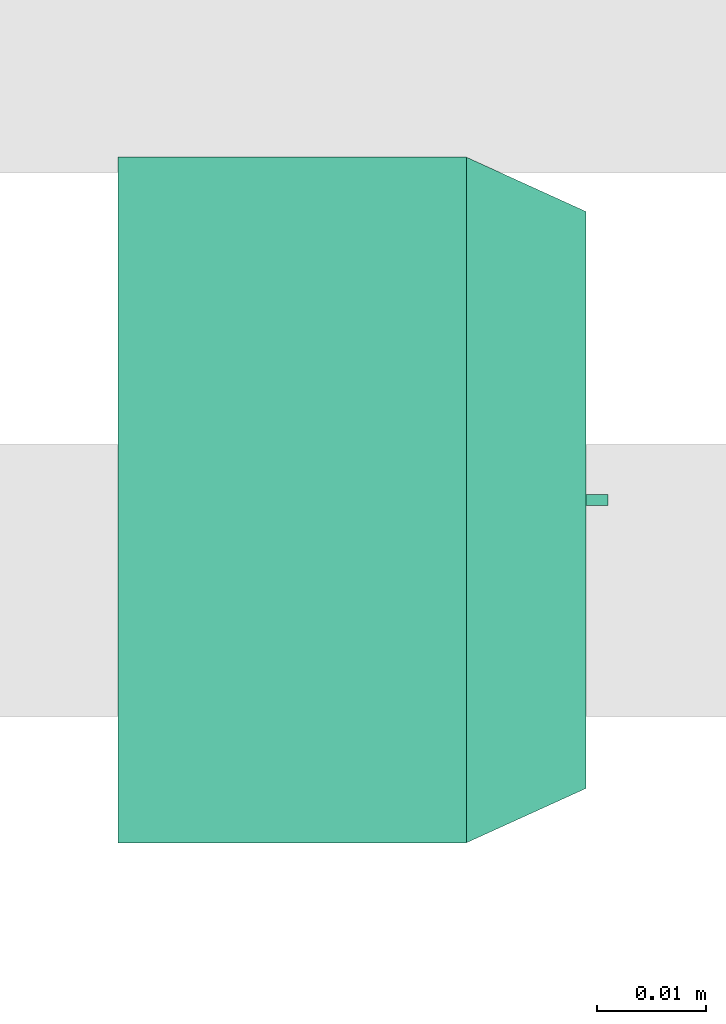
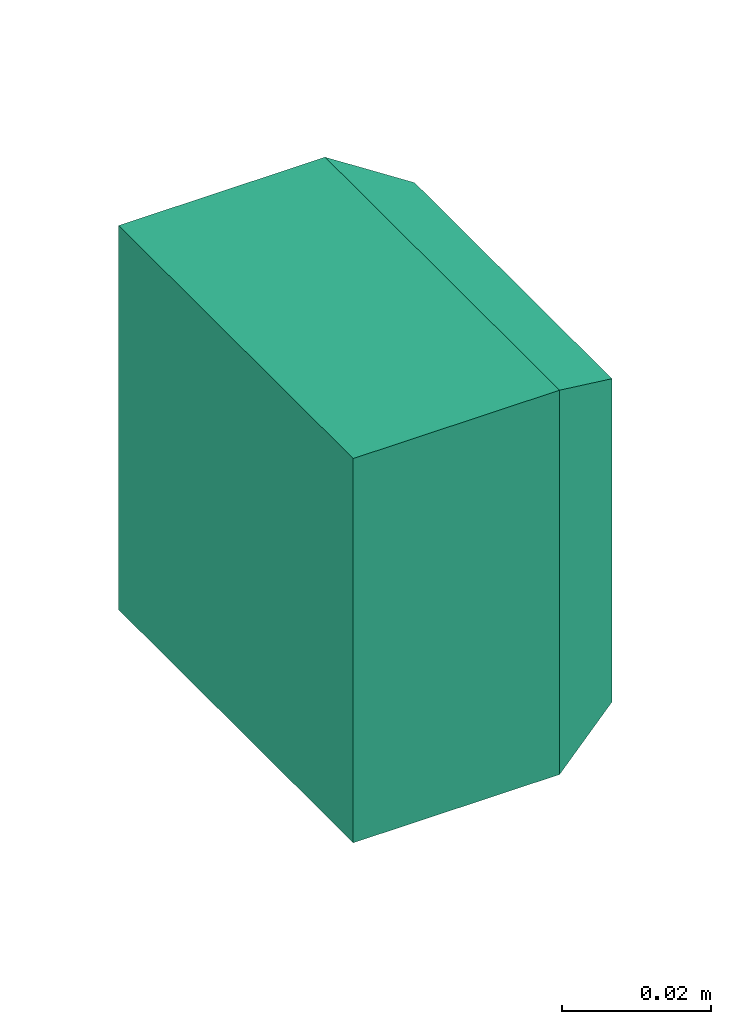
# One storey, part 22 of 22: 1 flow terminal.
"""IFC2X3 building model written with IfcOpenShell, lengths in millimetres."""

from ifc_helpers import new_model, entity, si_unit, converted_unit, derived_unit, direction, frame, origin_with_axes, place, context, subcontext, project, spatial, open_shell, surface_model, source, transform, mapped, type_object, element, save


model = new_model("IFC2X3")

# Units and contexts
model_context = context("Model", 3, precision=0.01, world=frame((0.0, 4.29681676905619e-09, 0.0)), true_north=direction((4.01073788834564e-13, 1.0)))
plan_context = context("Plan", 3, precision=0.01, world=frame((0.0, 4.29681676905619e-09, 0.0)), true_north=direction((4.01073788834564e-13, 1.0)))
body_context = subcontext(model_context, "Body", "Model", "MODEL_VIEW")
ifc_project = project(units=[converted_unit("PLANEANGLEUNIT", "DEGREE", entity("IfcPositiveLengthMeasure", 0.0174532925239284), si_unit("PLANEANGLEUNIT", "RADIAN"), dimensions=[0, 0, 0, 0, 0, 0, 0]), si_unit("AREAUNIT", "SQUARE_METRE"), si_unit("LENGTHUNIT", "METRE", prefix="MILLI"), si_unit("MASSUNIT", "GRAM", prefix="KILO"), si_unit("POWERUNIT", "WATT"), si_unit("PRESSUREUNIT", "PASCAL", prefix="KILO"), si_unit("FORCEUNIT", "NEWTON", prefix="KILO"), si_unit("ELECTRICVOLTAGEUNIT", "VOLT"), si_unit("ELECTRICCURRENTUNIT", "AMPERE"), si_unit("THERMODYNAMICTEMPERATUREUNIT", "DEGREE_CELSIUS"), si_unit("TIMEUNIT", "SECOND"), si_unit("VOLUMEUNIT", "CUBIC_METRE"), derived_unit("LINEARVELOCITYUNIT", [(si_unit("LENGTHUNIT", "METRE"), 1), (si_unit("TIMEUNIT", "SECOND"), -1)]), derived_unit("VOLUMETRICFLOWRATEUNIT", [(si_unit("VOLUMEUNIT", "CUBIC_METRE"), 1), (si_unit("TIMEUNIT", "SECOND"), -1)]), derived_unit("THERMALTRANSMITTANCEUNIT", [(si_unit("POWERUNIT", "WATT"), 1), (si_unit("THERMODYNAMICTEMPERATUREUNIT", "KELVIN"), -1), (si_unit("AREAUNIT", "SQUARE_METRE"), -1)]), derived_unit("SOUNDPRESSUREUNIT", [(si_unit("PRESSUREUNIT", "PASCAL"), 1)])], contexts=[model_context, plan_context])

# Site, building, storey
site_placement = place(None, frame((0.0, -4.29681676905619e-09, 0.0), z_axis=(0.0, 0.0, 1.0), x_axis=(1.0, 0.0, 0.0)))
site = spatial("IfcSite", under=ifc_project, at=site_placement, Name="ENGM", CompositionType="ELEMENT")
building_placement = place(site_placement, frame((0.0, 4.29681676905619e-09, 0.0), z_axis=(0.0, 0.0, 1.0), x_axis=(1.0, 0.0, 0.0)))
building = spatial("IfcBuilding", under=site, at=building_placement, Name="TI", CompositionType="ELEMENT")
storey_placement = place(building_placement, frame((0.0, 0.0, 210900.0), z_axis=(0.0, 0.0, 1.0), x_axis=(1.0, 0.0, 0.0)))
storey = spatial("IfcBuildingStorey", under=building, at=storey_placement, Name="Nivå F", CompositionType="ELEMENT", Elevation=210900.0)

# Flow terminal
outlet_type = type_object("IfcOutletType", Name="Jordet-topolet-1-veis-Påvegg", PredefinedType="POWEROUTLET")
shared_shape = source(origin_with_axes(), body_context, "Body", "SurfaceModel", [
    surface_model("IfcShellBasedSurfaceModel", [(0.5, 44.9429, -17.52434), (0.5, 45.01143, -17.00374), (0.5, 43.88169, -17.82364), (0.5, 44.74195, -18.00946), (0.5, 35.01143, -17.00374), (0.5, 44.4223, -18.42604), (0.5, 43.69523, -17.9879), (0.5, 44.00572, -18.74569), (0.5, 43.47906, -18.11047), (0.5, 43.52059, -18.94664), (0.5, 43.24237, -18.18616), (0.5, 43.0, -19.01518), (0.5, 35.01143, -17.82364), (0.5, 42.9952, -18.21175), (0.5, 21.5, -19.01518), (0.5, 21.5, -18.21175), (0.5, 43.88169, 17.82364), (0.5, 44.74195, 18.00946), (0.5, 44.4223, 18.42604), (0.5, 44.00572, 18.74569), (0.5, 43.69523, 17.9879), (0.5, 43.47906, 18.11047), (0.5, 45.01143, 17.00374), (0.5, 44.9429, 17.52434), (0.5, 43.52059, 18.94664), (0.5, 43.0, 19.01518), (0.5, 42.9952, 18.21175), (0.5, 43.24237, 18.18616), (0.5, 21.5, 19.01518), (0.5, 21.5, 18.21175), (0.5, 35.01143, 17.00374), (0.5, 35.01143, 17.82364), (-0.5, 35.01143, -17.82364), (-0.5, 35.01143, -17.00374), (-0.5, 43.88169, -17.82364), (-0.5, 43.0, -19.01518), (-0.5, 43.24237, -18.18616), (-0.5, 43.52059, -18.94664), (-0.5, 45.01143, -17.00374), (-0.5, 21.5, -18.21175), (-0.5, 42.9952, -18.21175), (-0.5, 21.5, -19.01518), (-0.5, 43.47906, -18.11047), (-0.5, 44.4223, -18.42604), (-0.5, 43.69523, -17.9879), (-0.5, 44.9429, -17.52434), (-0.5, 44.74195, -18.00946), (-0.5, 44.00572, -18.74569), (-0.5, 21.5, 18.21175), (-0.5, 21.5, 19.01518), (-0.5, 42.9952, 18.21175), (-0.5, 43.0, 19.01518), (-0.5, 43.24237, 18.18616), (-0.5, 35.01143, 17.00374), (-0.5, 35.01143, 17.82364), (-0.5, 43.88169, 17.82364), (-0.5, 43.52059, 18.94664), (-0.5, 43.47906, 18.11047), (-0.5, 44.00572, 18.74569), (-0.5, 43.69523, 17.9879), (-0.5, 44.4223, 18.42604), (-0.5, 44.74195, 18.00946), (-0.5, 44.9429, 17.52434), (-0.5, 45.01143, 17.00374), (7.83494, 22.0, -1.25), (9.35295, 22.0, -2.41481), (8.75, 22.0, -2.16506), (8.23223, 22.0, -1.76777), (7.58519, 22.0, -0.64705), (12.41481, 22.0, -0.64705), (7.58519, 22.0, 0.64705), (10.64705, 22.0, -2.41481), (11.76777, 22.0, -1.76777), (11.25, 22.0, -2.16506), (10.0, 22.0, -2.5), (12.16506, 22.0, -1.25), (7.5, 22.0, 0.0), (7.83494, 22.0, 1.25), (8.23223, 22.0, 1.76777), (12.41481, 22.0, 0.64705), (9.35295, 22.0, 2.41481), (8.75, 22.0, 2.16506), (10.0, 22.0, 2.5), (11.25, 22.0, 2.16506), (12.16506, 22.0, 1.25), (12.5, 22.0, 0.0), (11.76777, 22.0, 1.76777), (10.64705, 22.0, 2.41481), (-10.64705, 22.0, -2.41481), (-11.25, 22.0, -2.16506), (-11.76777, 22.0, -1.76777), (-8.23223, 22.0, -1.76777), (-12.41481, 22.0, -0.64705), (-12.16506, 22.0, -1.25), (-7.58519, 22.0, 0.64705), (-9.35295, 22.0, -2.41481), (-8.75, 22.0, -2.16506), (-10.0, 22.0, -2.5), (-7.58519, 22.0, -0.64705), (-7.83494, 22.0, -1.25), (-12.5, 22.0, 0.0), (-12.16506, 22.0, 1.25), (-11.76777, 22.0, 1.76777), (-11.25, 22.0, 2.16506), (-10.64705, 22.0, 2.41481), (-10.0, 22.0, 2.5), (-9.35295, 22.0, 2.41481), (-7.83494, 22.0, 1.25), (-7.5, 22.0, 0.0), (-8.23223, 22.0, 1.76777), (-8.75, 22.0, 2.16506), (-12.41481, 22.0, 0.64705), (9.35295, 21.5, 2.41481), (11.25, 21.5, 2.16506), (10.0, 21.5, 2.5), (8.23223, 21.5, 1.76777), (8.75, 21.5, 2.16506), (7.83494, 21.5, 1.25), (7.58519, 21.5, 0.64705), (12.16506, 21.5, 1.25), (11.76777, 21.5, 1.76777), (10.64705, 21.5, 2.41481), (12.41481, 21.5, 0.64705), (12.41481, 21.5, -0.64705), (12.5, 21.5, 0.0), (7.58519, 21.5, -0.64705), (9.35295, 21.5, -2.41481), (7.83494, 21.5, -1.25), (8.75, 21.5, -2.16506), (8.23223, 21.5, -1.76777), (10.0, 21.5, -2.5), (11.76777, 21.5, -1.76777), (12.16506, 21.5, -1.25), (10.64705, 21.5, -2.41481), (11.25, 21.5, -2.16506), (7.5, 21.5, 0.0), (-10.0, 21.5, 2.5), (-10.64705, 21.5, 2.41481), (-11.25, 21.5, 2.16506), (-9.35295, 21.5, 2.41481), (-11.76777, 21.5, 1.76777), (-12.41481, 21.5, -0.64705), (-12.16506, 21.5, 1.25), (-8.23223, 21.5, 1.76777), (-8.75, 21.5, 2.16506), (-7.83494, 21.5, 1.25), (-7.58519, 21.5, 0.64705), (-7.58519, 21.5, -0.64705), (-7.5, 21.5, 0.0), (-12.41481, 21.5, 0.64705), (-12.5, 21.5, 0.0), (-8.23223, 21.5, -1.76777), (-11.76777, 21.5, -1.76777), (-12.16506, 21.5, -1.25), (-11.25, 21.5, -2.16506), (-10.64705, 21.5, -2.41481), (-10.0, 21.5, -2.5), (-7.83494, 21.5, -1.25), (-9.35295, 21.5, -2.41481), (-8.75, 21.5, -2.16506), (-26.5, 43.0, -26.5), (-10.0, 43.0, -17.32051), (-5.17638, 43.0, -19.31852), (-14.14214, 43.0, -14.14214), (0.0, 43.0, -20.0), (-20.0, 43.0, 0.0), (-19.31852, 43.0, -5.17638), (-17.32051, 43.0, -10.0), (-26.5, 43.0, 26.5), (26.5, 43.0, -26.5), (5.17638, 43.0, -19.31852), (10.0, 43.0, -17.32051), (14.14214, 43.0, -14.14214), (17.32051, 43.0, -10.0), (19.31852, 43.0, -5.17638), (20.0, 43.0, 0.0), (-17.32051, 43.0, 10.0), (-19.31852, 43.0, 5.17638), (-14.14214, 43.0, 14.14214), (-10.0, 43.0, 17.32051), (-5.17638, 43.0, 19.31852), (0.0, 43.0, 20.0), (26.5, 43.0, 26.5), (19.31852, 43.0, 5.17638), (17.32051, 43.0, 10.0), (10.0, 43.0, 17.32051), (5.17638, 43.0, 19.31852), (14.14214, 43.0, 14.14214), (31.5, 32.0, -31.5), (10.0, 32.0, -17.32051), (5.17638, 32.0, -19.31852), (14.14214, 32.0, -14.14214), (0.0, 32.0, -20.0), (20.0, 32.0, 0.0), (19.31852, 32.0, -5.17638), (17.32051, 32.0, -10.0), (31.5, 32.0, 31.5), (-31.5, 32.0, -31.5), (-5.17638, 32.0, -19.31852), (-10.0, 32.0, -17.32051), (-14.14214, 32.0, -14.14214), (-17.32051, 32.0, -10.0), (-19.31852, 32.0, -5.17638), (-20.0, 32.0, 0.0), (17.32051, 32.0, 10.0), (19.31852, 32.0, 5.17638), (14.14214, 32.0, 14.14214), (10.0, 32.0, 17.32051), (5.17638, 32.0, 19.31852), (0.0, 32.0, 20.0), (-31.5, 32.0, 31.5), (-19.31852, 32.0, 5.17638), (-17.32051, 32.0, 10.0), (-10.0, 32.0, 17.32051), (-5.17638, 32.0, 19.31852), (-14.14214, 32.0, 14.14214), (-17.32051, 21.5, -10.0), (-19.31852, 21.5, -5.17638), (-5.17638, 21.5, -19.31852), (-10.0, 21.5, -17.32051), (-14.14214, 21.5, -14.14214), (-20.0, 21.5, 0.0), (0.0, 21.5, -20.0), (14.14214, 21.5, -14.14214), (10.0, 21.5, -17.32051), (20.0, 21.5, 0.0), (19.31852, 21.5, -5.17638), (17.32051, 21.5, -10.0), (5.17638, 21.5, -19.31852), (17.32051, 21.5, 10.0), (19.31852, 21.5, 5.17638), (5.17638, 21.5, 19.31852), (10.0, 21.5, 17.32051), (14.14214, 21.5, 14.14214), (0.0, 21.5, 20.0), (-14.14214, 21.5, 14.14214), (-10.0, 21.5, 17.32051), (-19.31852, 21.5, 5.17638), (-17.32051, 21.5, 10.0), (-5.17638, 21.5, 19.31852), (-31.5, 0.0, 31.5), (-31.5, 0.0, -31.5), (31.5, 0.0, -31.5), (31.5, 0.0, 31.5)], [open_shell([[[0, 1, 2]], [[0, 2, 3]], [[2, 1, 4]], [[5, 2, 6]], [[3, 2, 5]], [[7, 5, 6]], [[8, 9, 7]], [[7, 6, 8]], [[10, 11, 9]], [[12, 2, 4]], [[13, 11, 10]], [[13, 14, 11]], [[15, 14, 13]], [[10, 9, 8]], [[16, 17, 18]], [[18, 19, 20]], [[19, 21, 20]], [[22, 23, 16]], [[16, 23, 17]], [[18, 20, 16]], [[19, 24, 21]], [[25, 26, 27]], [[25, 28, 26]], [[28, 29, 26]], [[21, 24, 27]], [[30, 22, 16]], [[31, 30, 16]], [[27, 24, 25]], [[32, 33, 34]], [[35, 36, 37]], [[33, 38, 34]], [[39, 40, 41]], [[35, 40, 36]], [[41, 40, 35]], [[36, 42, 37]], [[43, 44, 34]], [[38, 45, 34]], [[46, 34, 45]], [[42, 47, 37]], [[47, 44, 43]], [[34, 46, 43]], [[47, 42, 44]], [[48, 49, 50]], [[50, 51, 52]], [[51, 50, 49]], [[53, 54, 55]], [[56, 57, 52]], [[52, 51, 56]], [[57, 58, 59]], [[59, 58, 60]], [[55, 60, 61]], [[59, 60, 55]], [[62, 63, 55]], [[61, 62, 55]], [[53, 55, 63]], [[58, 57, 56]], [[9, 35, 37]], [[7, 37, 47]], [[11, 35, 9]], [[7, 9, 37]], [[5, 7, 47]], [[47, 43, 5]], [[3, 43, 46]], [[0, 46, 45]], [[3, 46, 0]], [[1, 0, 45]], [[38, 1, 45]], [[43, 3, 5]], [[4, 1, 33]], [[38, 33, 1]], [[12, 4, 32]], [[33, 32, 4]], [[2, 12, 32]], [[32, 34, 2]], [[34, 6, 2]], [[34, 44, 6]], [[8, 6, 44]], [[42, 8, 44]], [[36, 13, 10]], [[42, 36, 10]], [[40, 13, 36]], [[8, 42, 10]], [[15, 13, 40]], [[40, 39, 15]], [[14, 15, 41]], [[39, 41, 15]], [[11, 14, 41]], [[41, 35, 11]], [[28, 25, 51]], [[51, 49, 28]], [[29, 28, 48]], [[49, 48, 28]], [[26, 29, 50]], [[48, 50, 29]], [[50, 27, 26]], [[50, 52, 27]], [[21, 27, 52]], [[57, 21, 52]], [[59, 16, 20]], [[57, 59, 20]], [[55, 16, 59]], [[21, 57, 20]], [[31, 16, 55]], [[55, 54, 31]], [[30, 31, 53]], [[54, 53, 31]], [[22, 30, 53]], [[53, 63, 22]], [[23, 63, 62]], [[17, 62, 61]], [[22, 63, 23]], [[17, 23, 62]], [[18, 17, 61]], [[61, 60, 18]], [[19, 60, 58]], [[24, 58, 56]], [[19, 58, 24]], [[25, 24, 56]], [[51, 25, 56]], [[60, 19, 18]], [[64, 65, 66]], [[64, 66, 67]], [[65, 68, 69]], [[68, 65, 64]], [[70, 69, 68]], [[71, 72, 73]], [[69, 71, 74]], [[72, 69, 75]], [[69, 72, 71]], [[74, 65, 69]], [[68, 76, 70]], [[70, 77, 78]], [[69, 78, 79]], [[78, 80, 79]], [[80, 78, 81]], [[82, 83, 80]], [[79, 83, 84]], [[85, 69, 79]], [[84, 83, 86]], [[79, 80, 83]], [[87, 83, 82]], [[69, 70, 78]], [[88, 89, 90]], [[91, 88, 90]], [[91, 90, 92]], [[92, 90, 93]], [[92, 94, 91]], [[95, 91, 96]], [[91, 95, 97]], [[91, 98, 99]], [[91, 97, 88]], [[91, 94, 98]], [[92, 100, 101]], [[92, 101, 102]], [[92, 102, 103]], [[103, 104, 105]], [[106, 92, 103]], [[103, 105, 106]], [[92, 107, 94]], [[108, 98, 94]], [[109, 106, 110]], [[106, 109, 107]], [[107, 92, 106]], [[100, 111, 101]], [[112, 113, 114]], [[115, 112, 116]], [[115, 117, 118]], [[113, 112, 115]], [[113, 115, 118]], [[113, 119, 120]], [[113, 121, 114]], [[113, 122, 119]], [[118, 122, 113]], [[122, 123, 124]], [[122, 118, 125]], [[125, 126, 122]], [[126, 125, 127]], [[128, 126, 127]], [[128, 127, 129]], [[122, 126, 130]], [[123, 131, 132]], [[131, 123, 133]], [[131, 133, 134]], [[133, 123, 130]], [[122, 130, 123]], [[125, 118, 135]], [[136, 137, 138]], [[139, 136, 138]], [[138, 140, 141]], [[139, 138, 141]], [[140, 142, 141]], [[139, 143, 144]], [[143, 139, 145]], [[145, 141, 146]], [[141, 145, 139]], [[146, 147, 148]], [[142, 149, 150]], [[146, 141, 151]], [[152, 141, 153]], [[152, 154, 155]], [[141, 152, 151]], [[155, 156, 152]], [[147, 151, 157]], [[146, 151, 147]], [[151, 158, 159]], [[158, 151, 156]], [[152, 156, 151]], [[141, 142, 150]], [[123, 69, 124]], [[132, 75, 123]], [[73, 131, 134]], [[132, 131, 72]], [[71, 134, 133]], [[123, 75, 69]], [[69, 85, 124]], [[71, 73, 134]], [[72, 131, 73]], [[72, 75, 132]], [[74, 71, 133]], [[133, 130, 74]], [[126, 65, 130]], [[128, 66, 126]], [[64, 129, 127]], [[128, 129, 67]], [[68, 127, 125]], [[128, 67, 66]], [[66, 65, 126]], [[76, 68, 125]], [[64, 127, 68]], [[64, 67, 129]], [[135, 76, 125]], [[130, 65, 74]], [[118, 70, 135]], [[117, 77, 118]], [[81, 115, 116]], [[117, 115, 78]], [[80, 116, 112]], [[118, 77, 70]], [[70, 76, 135]], [[80, 81, 116]], [[78, 115, 81]], [[78, 77, 117]], [[82, 80, 112]], [[112, 114, 82]], [[121, 87, 114]], [[113, 83, 121]], [[84, 120, 119]], [[113, 120, 86]], [[79, 119, 122]], [[113, 86, 83]], [[83, 87, 121]], [[85, 79, 122]], [[84, 119, 79]], [[84, 86, 120]], [[124, 85, 122]], [[114, 87, 82]], [[147, 98, 148]], [[157, 99, 147]], [[96, 151, 159]], [[157, 151, 91]], [[95, 159, 158]], [[147, 99, 98]], [[98, 108, 148]], [[95, 96, 159]], [[91, 151, 96]], [[91, 99, 157]], [[97, 95, 158]], [[158, 156, 97]], [[155, 88, 156]], [[154, 89, 155]], [[93, 152, 153]], [[154, 152, 90]], [[92, 153, 141]], [[154, 90, 89]], [[89, 88, 155]], [[100, 92, 141]], [[93, 153, 92]], [[93, 90, 152]], [[150, 100, 141]], [[156, 88, 97]], [[149, 111, 150]], [[142, 101, 149]], [[103, 140, 138]], [[142, 140, 102]], [[104, 138, 137]], [[149, 101, 111]], [[111, 100, 150]], [[104, 103, 138]], [[102, 140, 103]], [[102, 101, 142]], [[105, 104, 137]], [[137, 136, 105]], [[139, 106, 136]], [[144, 110, 139]], [[107, 143, 145]], [[144, 143, 109]], [[94, 145, 146]], [[144, 109, 110]], [[110, 106, 139]], [[108, 94, 146]], [[107, 145, 94]], [[107, 109, 143]], [[148, 108, 146]], [[136, 106, 105]], [[160, 161, 162]], [[161, 160, 163]], [[160, 162, 164]], [[165, 166, 160]], [[167, 163, 160]], [[166, 167, 160]], [[160, 168, 165]], [[169, 164, 170]], [[164, 169, 160]], [[169, 170, 171]], [[171, 172, 169]], [[173, 174, 169]], [[172, 173, 169]], [[169, 174, 175]], [[176, 177, 168]], [[178, 176, 168]], [[179, 168, 180]], [[168, 179, 178]], [[181, 180, 168]], [[168, 182, 181]], [[177, 165, 168]], [[183, 184, 182]], [[175, 183, 182]], [[185, 186, 182]], [[187, 182, 184]], [[182, 187, 185]], [[186, 181, 182]], [[175, 182, 169]], [[188, 189, 190]], [[189, 188, 191]], [[188, 190, 192]], [[193, 194, 188]], [[195, 191, 188]], [[194, 195, 188]], [[188, 196, 193]], [[197, 192, 198]], [[192, 197, 188]], [[197, 198, 199]], [[199, 200, 197]], [[201, 202, 197]], [[200, 201, 197]], [[197, 202, 203]], [[204, 205, 196]], [[206, 204, 196]], [[207, 196, 208]], [[196, 207, 206]], [[209, 208, 196]], [[196, 210, 209]], [[205, 193, 196]], [[211, 212, 210]], [[203, 211, 210]], [[213, 214, 210]], [[215, 210, 212]], [[210, 215, 213]], [[214, 209, 210]], [[203, 210, 197]], [[160, 197, 210]], [[210, 168, 160]], [[168, 210, 196]], [[196, 182, 168]], [[182, 196, 169]], [[188, 169, 196]], [[169, 188, 160]], [[197, 160, 188]], [[165, 202, 166]], [[166, 201, 167]], [[161, 163, 199]], [[200, 163, 167]], [[162, 161, 198]], [[202, 201, 166]], [[165, 203, 202]], [[161, 199, 198]], [[199, 163, 200]], [[167, 201, 200]], [[162, 198, 192]], [[192, 164, 162]], [[164, 190, 170]], [[170, 189, 171]], [[173, 172, 195]], [[191, 172, 171]], [[174, 173, 194]], [[189, 191, 171]], [[170, 190, 189]], [[174, 194, 193]], [[194, 173, 195]], [[172, 191, 195]], [[174, 193, 175]], [[192, 190, 164]], [[175, 205, 183]], [[183, 204, 184]], [[185, 187, 207]], [[206, 187, 184]], [[186, 185, 208]], [[205, 204, 183]], [[175, 193, 205]], [[185, 207, 208]], [[207, 187, 206]], [[184, 204, 206]], [[186, 208, 209]], [[209, 181, 186]], [[181, 214, 180]], [[180, 213, 179]], [[176, 178, 212]], [[215, 178, 179]], [[177, 176, 211]], [[213, 215, 179]], [[180, 214, 213]], [[177, 211, 203]], [[211, 176, 212]], [[178, 215, 212]], [[177, 203, 165]], [[209, 214, 181]], [[216, 201, 202]], [[217, 202, 203]], [[218, 198, 199]], [[219, 199, 200]], [[220, 200, 201]], [[217, 216, 202]], [[203, 221, 217]], [[199, 219, 218]], [[219, 200, 220]], [[201, 216, 220]], [[198, 218, 222]], [[222, 192, 198]], [[223, 191, 189]], [[224, 189, 190]], [[225, 193, 194]], [[226, 194, 195]], [[227, 195, 191]], [[192, 228, 190]], [[228, 224, 190]], [[222, 228, 192]], [[227, 191, 223]], [[224, 223, 189]], [[195, 227, 226]], [[226, 225, 194]], [[229, 204, 205]], [[230, 205, 193]], [[231, 208, 207]], [[232, 207, 206]], [[233, 206, 204]], [[230, 229, 205]], [[193, 225, 230]], [[207, 232, 231]], [[232, 206, 233]], [[204, 229, 233]], [[208, 231, 234]], [[234, 209, 208]], [[235, 215, 213]], [[236, 213, 214]], [[221, 203, 211]], [[237, 211, 212]], [[238, 212, 215]], [[209, 239, 214]], [[239, 236, 214]], [[234, 239, 209]], [[238, 215, 235]], [[236, 235, 213]], [[212, 238, 237]], [[237, 221, 211]], [[240, 241, 242]], [[242, 243, 240]], [[188, 195, 194]], [[195, 188, 191]], [[188, 194, 193]], [[192, 190, 188]], [[189, 191, 188]], [[190, 189, 188]], [[188, 197, 192]], [[196, 193, 205]], [[193, 196, 188]], [[196, 205, 204]], [[204, 206, 196]], [[207, 208, 196]], [[206, 207, 196]], [[196, 208, 209]], [[199, 198, 197]], [[200, 199, 197]], [[201, 197, 202]], [[197, 201, 200]], [[203, 202, 197]], [[197, 210, 203]], [[198, 192, 197]], [[214, 213, 210]], [[209, 214, 210]], [[212, 211, 210]], [[215, 210, 213]], [[210, 215, 212]], [[211, 203, 210]], [[209, 210, 196]], [[242, 241, 197]], [[197, 188, 242]], [[243, 242, 188]], [[188, 196, 243]], [[240, 243, 196]], [[196, 210, 240]], [[241, 240, 210]], [[210, 197, 241]], [[223, 224, 228]], [[225, 223, 228]], [[225, 226, 227]], [[223, 225, 227]], [[228, 218, 233]], [[219, 217, 218]], [[228, 222, 218]], [[216, 217, 220]], [[219, 220, 217]], [[217, 236, 218]], [[230, 225, 228]], [[233, 229, 230]], [[218, 232, 233]], [[234, 231, 232]], [[232, 218, 236]], [[234, 232, 236]], [[238, 235, 237]], [[237, 217, 221]], [[235, 236, 237]], [[217, 237, 236]], [[236, 239, 234]], [[228, 233, 230]]])]),
])
flow_terminal_placement = place(storey_placement, frame((585646.64076, 576707.01908, 2250.0), z_axis=(0.0, 0.0, 1.0), x_axis=(0.0, -1.0, 0.0)))
element("IfcFlowTerminal", 1, at=flow_terminal_placement, inside=storey, type_object=outlet_type, Name="Jordet-topolet-1-veis-Påvegg", context=body_context, shape_type="MappedRepresentation", body=[
    mapped(shared_shape, transform((0.0, 0.0, 0.0), scale=1.0)),
])

save(model, "model.ifc")
